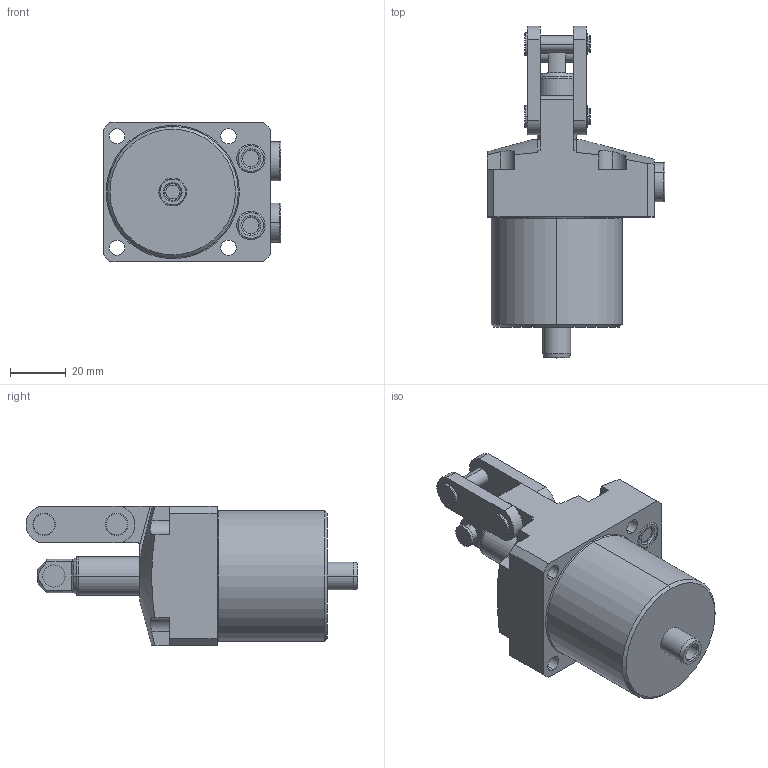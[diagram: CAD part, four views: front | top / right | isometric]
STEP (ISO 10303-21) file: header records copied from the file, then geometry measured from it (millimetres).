
FILE_DESCRIPTION(/* description */ (''),/* implementation_level */ '2;1');
FILE_NAME(/* name */ 'TPC04-LD.stp',/* time_stamp */ '2025-01-05T10:18:55+08:00',/* author */ (''),/* organization */ (''),/* preprocessor_version */ 'ST-DEVELOPER v16.7',/* originating_system */ 'SIEMENS PLM Software NX 12.0',/* authorisation */ '');
FILE_SCHEMA (('AUTOMOTIVE_DESIGN { 1 0 10303 214 3 1 1 1 }'));
Length unit declared in the file: millimetre
Products named in the file (5): TPC04-LD-04; TPC04-LD-03; TPC04-LD-02; TPC04-LD-01; TPC04-LD_stp
Assembly tree (5 placements, depth 2):
  TPC04-LD_stp
    TPC04-LD-01
    TPC04-LD-02
    TPC04-LD-03
    TPC04-LD-04  x2
Bounding box: 63.8 x 118.97 x 50 mm (x, y, z)
Volume: 148996.8 mm3; surface area: 31577.2 mm2
Topology: 5 solids, 7 shells, 301 faces, 711 edges, 452 vertices
Faces by surface type: cylinder 128, plane 114, torus 34, cone 23, extrusion 2
Entity records: 8446 total; most frequent: CARTESIAN_POINT 1609, DIRECTION 1507, ORIENTED_EDGE 1330, EDGE_CURVE 665, AXIS2_PLACEMENT_3D 603, VERTEX_POINT 424, EDGE_LOOP 327, CIRCLE 320
